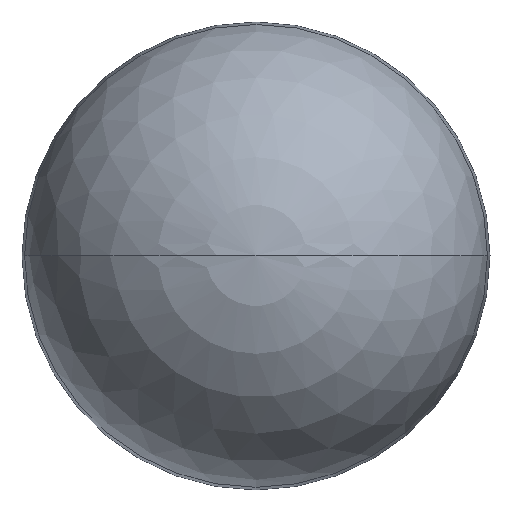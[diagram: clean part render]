
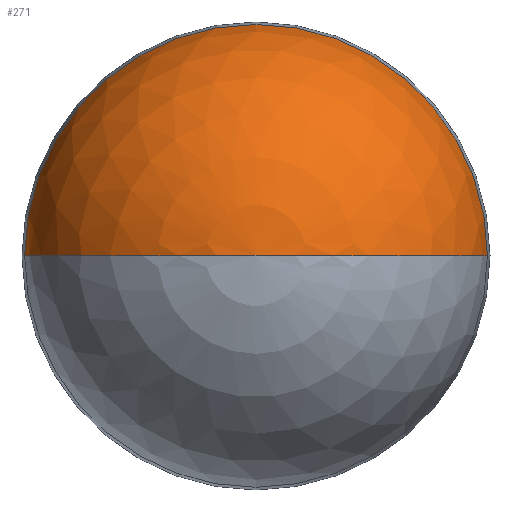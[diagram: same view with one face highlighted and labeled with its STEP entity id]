
A CAD part, top view. The second image highlights one B-rep face of the part: STEP entity #271.
In plain terms, the highlighted spherical face has radius 62.1 mm.
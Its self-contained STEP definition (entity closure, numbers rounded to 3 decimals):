
#144=CARTESIAN_POINT('',(0.,0.,
-44.171));
#145=DIRECTION('',(0.,1.,0.));
#146=DIRECTION('',(0.,0.,1.));
#147=AXIS2_PLACEMENT_3D('',#144,#145,#146);
#149=CARTESIAN_POINT('',(0.,0.,
-42.004));
#150=DIRECTION('',(0.,0.,-1.));
#151=DIRECTION('',(-1.,0.,0.));
#152=AXIS2_PLACEMENT_3D('',#149,#150,#151);
#154=CARTESIAN_POINT('',(0.,0.,
-44.171));
#155=DIRECTION('',(0.,-1.,0.));
#156=DIRECTION('',(0.,0.,1.));
#157=AXIS2_PLACEMENT_3D('',#154,#155,#156);
#211=CARTESIAN_POINT('',(62.062,0.,
-42.004));
#212=CARTESIAN_POINT('',(-62.062,0.,
-42.004));
#213=VERTEX_POINT('',#211);
#214=VERTEX_POINT('',#212);
#219=CARTESIAN_POINT('',(0.,0.,
17.929));
#220=VERTEX_POINT('',#219);
#260=CARTESIAN_POINT('',(0.,0.,
-44.171));
#261=DIRECTION('',(0.,0.,1.));
#262=DIRECTION('',(1.,0.,0.));
#263=AXIS2_PLACEMENT_3D('',#260,#261,#262);
#264=SPHERICAL_SURFACE('',#263,62.1);
#266=ORIENTED_EDGE('',*,*,#265,.T.);
#267=ORIENTED_EDGE('',*,*,#255,.F.);
#268=ORIENTED_EDGE('',*,*,#253,.T.);
#269=EDGE_LOOP('',(#266,#267,#268));
#270=FACE_OUTER_BOUND('',#269,.F.);
#271=ADVANCED_FACE('',(#270),#264,.T.);
#148=CIRCLE('',#147,62.1);
#153=CIRCLE('',#152,62.062);
#158=CIRCLE('',#157,62.1);
#253=EDGE_CURVE('',#220,#214,#158,.T.);
#255=EDGE_CURVE('',#220,#213,#148,.T.);
#265=EDGE_CURVE('',#214,#213,#153,.T.);
